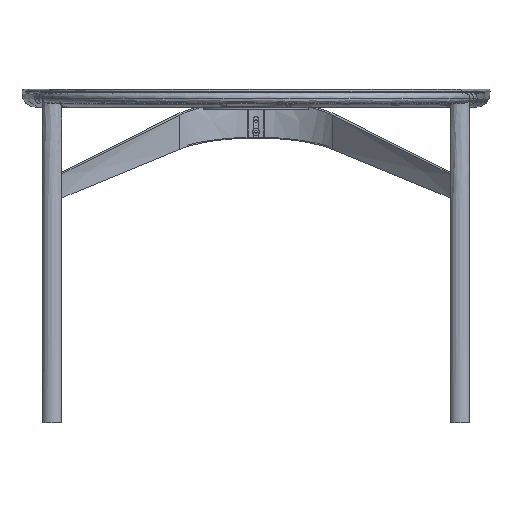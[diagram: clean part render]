
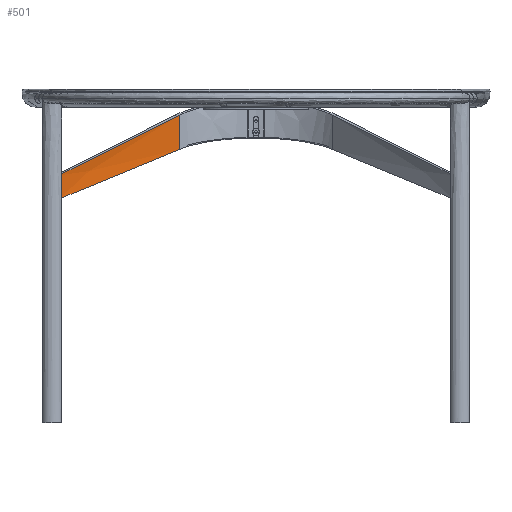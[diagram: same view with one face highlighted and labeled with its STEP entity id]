
A CAD part, left-side view. The second image highlights one B-rep face of the part: STEP entity #501.
In plain terms, the highlighted free-form (B-spline) face has degree [3, 3] with [4, 6] control points.
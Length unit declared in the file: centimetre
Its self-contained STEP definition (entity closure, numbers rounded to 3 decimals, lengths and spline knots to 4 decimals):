
#501=ADVANCED_FACE('',(#795),#5311,.T.);
#795=FACE_OUTER_BOUND('',#1126,.T.);
#1126=EDGE_LOOP('',(#2554,#2555,#2556,#2557));
#2554=ORIENTED_EDGE('',*,*,#3526,.T.);
#2555=ORIENTED_EDGE('',*,*,#3531,.T.);
#2556=ORIENTED_EDGE('',*,*,#3536,.T.);
#2557=ORIENTED_EDGE('',*,*,#3466,.F.);
#3466=EDGE_CURVE('',#4970,#4971,#4304,.T.);
#3526=EDGE_CURVE('',#4970,#4995,#4364,.T.);
#3531=EDGE_CURVE('',#4995,#4996,#4369,.T.);
#3536=EDGE_CURVE('',#4996,#4971,#4374,.T.);
#4304=B_SPLINE_CURVE_WITH_KNOTS('',3,(#23276,#23277,#23278,#23279),
 .UNSPECIFIED.,.F.,.F.,(4,4),(0.,5.3515),.UNSPECIFIED.);
#4364=B_SPLINE_CURVE_WITH_KNOTS('',3,(#24009,#24010,#24011,#24012,#24013,
#24014,#24015,#24016),.UNSPECIFIED.,.F.,.F.,(4,2,2,4),(0.,12.4307,
24.8613,49.7226),.UNSPECIFIED.);
#4369=B_SPLINE_CURVE_WITH_KNOTS('',3,(#24038,#24039,#24040,#24041),
 .UNSPECIFIED.,.F.,.F.,(4,4),(-7.7403,0.),.UNSPECIFIED.);
#4374=B_SPLINE_CURVE_WITH_KNOTS('',3,(#24118,#24119,#24120,#24121,#24122,
#24123,#24124,#24125,#24126,#24127),.UNSPECIFIED.,.F.,.F.,(4,2,2,2,4),(0.,
12.5791,25.1582,37.7373,50.3163),
 .UNSPECIFIED.);
#4970=VERTEX_POINT('',#22907);
#4971=VERTEX_POINT('',#22908);
#4995=VERTEX_POINT('',#22932);
#4996=VERTEX_POINT('',#22933);
#5311=B_SPLINE_SURFACE_WITH_KNOTS('',3,3,((#21792,#21793,#21794,#21795,
#21796,#21797),(#21798,#21799,#21800,#21801,#21802,#21803),(#21804,#21805,
#21806,#21807,#21808,#21809),(#21810,#21811,#21812,#21813,#21814,#21815)),
 .UNSPECIFIED.,.F.,.F.,.F.,(4,4),(4,1,1,4),(-2.9439,16.0346),
(2.2142,14.3231,26.4321,50.6501),
 .UNSPECIFIED.);
#21792=CARTESIAN_POINT('',(-887.7597,270.732,32.0964));
#21793=CARTESIAN_POINT('',(-885.0031,268.4629,32.0964));
#21794=CARTESIAN_POINT('',(-879.5888,263.9246,32.0964));
#21795=CARTESIAN_POINT('',(-869.0986,254.848,32.0964));
#21796=CARTESIAN_POINT('',(-861.5512,248.0406,32.0964));
#21797=CARTESIAN_POINT('',(-856.6125,243.5023,32.0964));
#21798=CARTESIAN_POINT('',(-887.7597,270.732,25.7702));
#21799=CARTESIAN_POINT('',(-885.0031,268.4629,25.7702));
#21800=CARTESIAN_POINT('',(-879.5888,263.9246,25.7702));
#21801=CARTESIAN_POINT('',(-869.0986,254.848,25.7702));
#21802=CARTESIAN_POINT('',(-861.5512,248.0406,25.7702));
#21803=CARTESIAN_POINT('',(-856.6125,243.5023,25.7702));
#21804=CARTESIAN_POINT('',(-887.7597,270.732,19.4441));
#21805=CARTESIAN_POINT('',(-885.0031,268.4629,19.4441));
#21806=CARTESIAN_POINT('',(-879.5888,263.9246,19.4441));
#21807=CARTESIAN_POINT('',(-869.0986,254.848,19.4441));
#21808=CARTESIAN_POINT('',(-861.5512,248.0406,19.4441));
#21809=CARTESIAN_POINT('',(-856.6125,243.5023,19.4441));
#21810=CARTESIAN_POINT('',(-887.7597,270.732,13.1179));
#21811=CARTESIAN_POINT('',(-885.0031,268.4629,13.1179));
#21812=CARTESIAN_POINT('',(-879.5888,263.9246,13.1179));
#21813=CARTESIAN_POINT('',(-869.0986,254.848,13.1179));
#21814=CARTESIAN_POINT('',(-861.5512,248.0406,13.1179));
#21815=CARTESIAN_POINT('',(-856.6125,243.5023,13.1179));
#22907=CARTESIAN_POINT('',(-887.7597,270.732,13.1179));
#22908=CARTESIAN_POINT('',(-887.7597,270.732,18.4694));
#22932=CARTESIAN_POINT('',(-856.6125,243.5023,24.3561));
#22933=CARTESIAN_POINT('',(-856.6125,243.5023,32.0964));
#23276=CARTESIAN_POINT('',(-887.7597,270.732,13.1179));
#23277=CARTESIAN_POINT('',(-887.7597,270.732,14.9017));
#23278=CARTESIAN_POINT('',(-887.7597,270.732,16.6856));
#23279=CARTESIAN_POINT('',(-887.7597,270.732,18.4694));
#24009=CARTESIAN_POINT('',(-887.7597,270.732,13.1179));
#24010=CARTESIAN_POINT('',(-885.0031,268.4629,14.0544));
#24011=CARTESIAN_POINT('',(-882.296,266.1937,14.9909));
#24012=CARTESIAN_POINT('',(-876.9662,261.6554,16.864));
#24013=CARTESIAN_POINT('',(-874.3437,259.3863,17.8005));
#24014=CARTESIAN_POINT('',(-866.5828,252.5789,20.6101));
#24015=CARTESIAN_POINT('',(-861.5512,248.0406,22.4831));
#24016=CARTESIAN_POINT('',(-856.6125,243.5023,24.3561));
#24038=CARTESIAN_POINT('',(-856.6125,243.5023,24.3561));
#24039=CARTESIAN_POINT('',(-856.6125,243.5023,26.9362));
#24040=CARTESIAN_POINT('',(-856.6125,243.5023,29.5163));
#24041=CARTESIAN_POINT('',(-856.6125,243.5023,32.0964));
#24118=CARTESIAN_POINT('',(-856.6125,243.5023,32.0964));
#24119=CARTESIAN_POINT('',(-859.0818,245.7714,30.9608));
#24120=CARTESIAN_POINT('',(-861.5744,248.0406,29.8252));
#24121=CARTESIAN_POINT('',(-866.6184,252.5789,27.5541));
#24122=CARTESIAN_POINT('',(-869.1698,254.848,26.4185));
#24123=CARTESIAN_POINT('',(-874.3437,259.3863,24.1473));
#24124=CARTESIAN_POINT('',(-876.9662,261.6554,23.0118));
#24125=CARTESIAN_POINT('',(-882.296,266.1937,20.7406));
#24126=CARTESIAN_POINT('',(-885.0032,268.4629,19.605));
#24127=CARTESIAN_POINT('',(-887.7597,270.732,18.4694));
